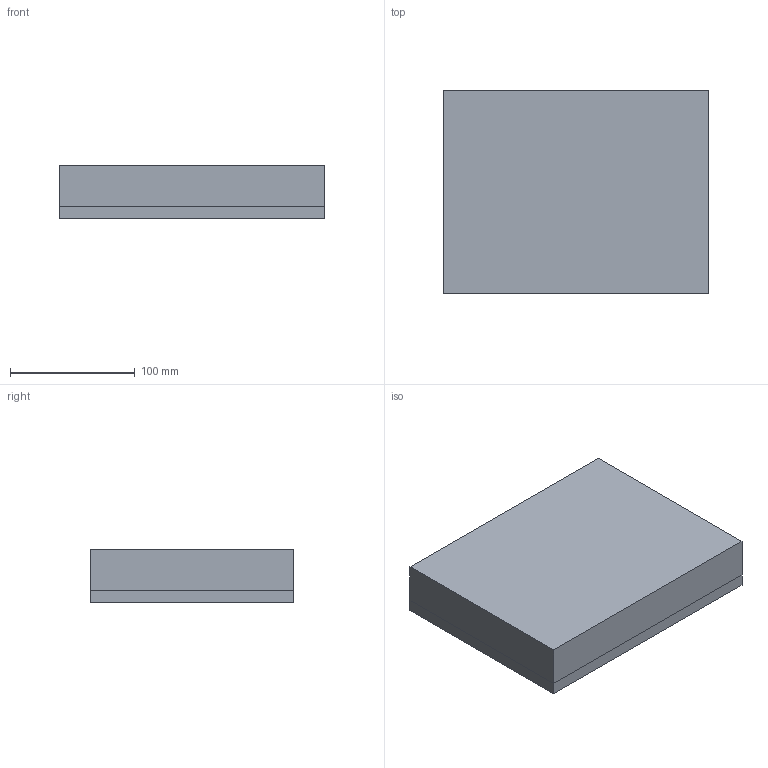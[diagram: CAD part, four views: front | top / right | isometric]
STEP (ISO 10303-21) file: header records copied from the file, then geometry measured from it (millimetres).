
FILE_DESCRIPTION(('CATIA V5 STEP Exchange'),'2;1');
FILE_NAME('C:\_Andres\UNIVERSIDAD\IQS\ASIGNATURAS\DAO\Controles\1920\c2\c2-Loscos_Martin_Carlos.stp','2020-02-10T15:38:16+00:00',('none'),('none'),'CATIA Version 5 Release 19 SP 3 (IN-10)','CATIA V5 STEP AP203','none');
FILE_SCHEMA(('CONFIG_CONTROL_DESIGN'));
Length unit declared in the file: millimetre
Products named in the file (1): c2-Loscos_Martin_Carlos
Bounding box: 213 x 163 x 43 mm (x, y, z)
Surface area: 254526.5 mm2
Topology: 3 solids, 3 shells, 103 faces, 232 edges, 128 vertices
Faces by surface type: cylinder 40, plane 27, bspline 24, sphere 12
Entity records: 3348 total; most frequent: CARTESIAN_POINT 1636, ORIENTED_EDGE 440, DIRECTION 224, EDGE_CURVE 164, EDGE_LOOP 110, ADVANCED_FACE 103, FACE_OUTER_BOUND 103, AXIS2_PLACEMENT_3D 96
